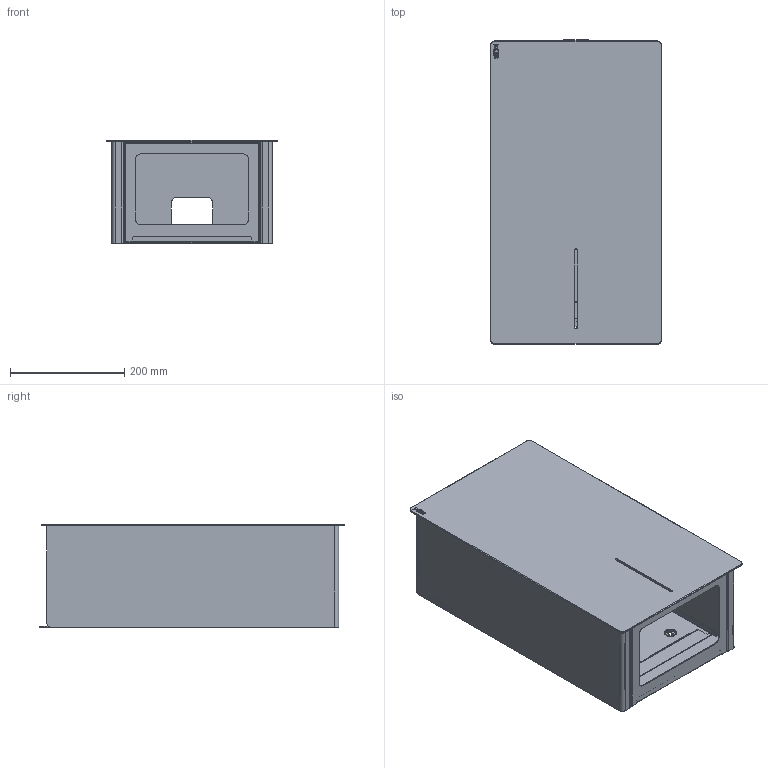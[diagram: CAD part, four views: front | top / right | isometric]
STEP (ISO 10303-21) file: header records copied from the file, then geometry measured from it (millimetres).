
FILE_DESCRIPTION(/* description */ (''),/* implementation_level */ '2;1');
FILE_NAME(/* name */ 'X:\Standardvarer\4090 DAN DRYER LOKI waste bin\Tegninger\Public 3D files\409x DAN DRYER LOKI waste bin.stp',/* time_stamp */ '2020-09-28T15:25:00+02:00',/* author */ ('Dan Dryer'),/* organization */ (''),/* preprocessor_version */ 'ST-DEVELOPER v16.1',/* originating_system */ 'Autodesk Inventor 2016',/* authorisation */ '');
FILE_SCHEMA (('AUTOMOTIVE_DESIGN { 1 0 10303 214 3 1 1 }'));
Length unit declared in the file: millimetre
Products named in the file (9): 67300-11; 67300-10; 67300-12; 67300-13; 67300-14; Viking logo i streg 24x9 - tykke streger til brug i Inventor; 67300; 67305; 4090 DAN DRYER LOKI waste bin
Assembly tree (9 placements, depth 3):
  4090 DAN DRYER LOKI waste bin
    67300
      67300-11
      67300-10
      67300-12
      67300-13
      67300-14  x2
      Viking logo i streg 24x9 - tykke streger til brug i Inventor
    67305
Bounding box: 300 x 532.5 x 181.6 mm (x, y, z)
Volume: 1120640.7 mm3; surface area: 1195079.3 mm2
Topology: 18 solids, 18 shells, 581 faces, 1431 edges, 890 vertices
Faces by surface type: plane 392, cylinder 159, torus 20, cone 6, bspline 4
Full cylindrical faces by diameter (mm): 5 x1, 6.2 x4
Entity records: 15997 total; most frequent: CARTESIAN_POINT 2843, DIRECTION 2722, ORIENTED_EDGE 2624, EDGE_CURVE 1312, LINE 984, VECTOR 984, AXIS2_PLACEMENT_3D 869, VERTEX_POINT 834
